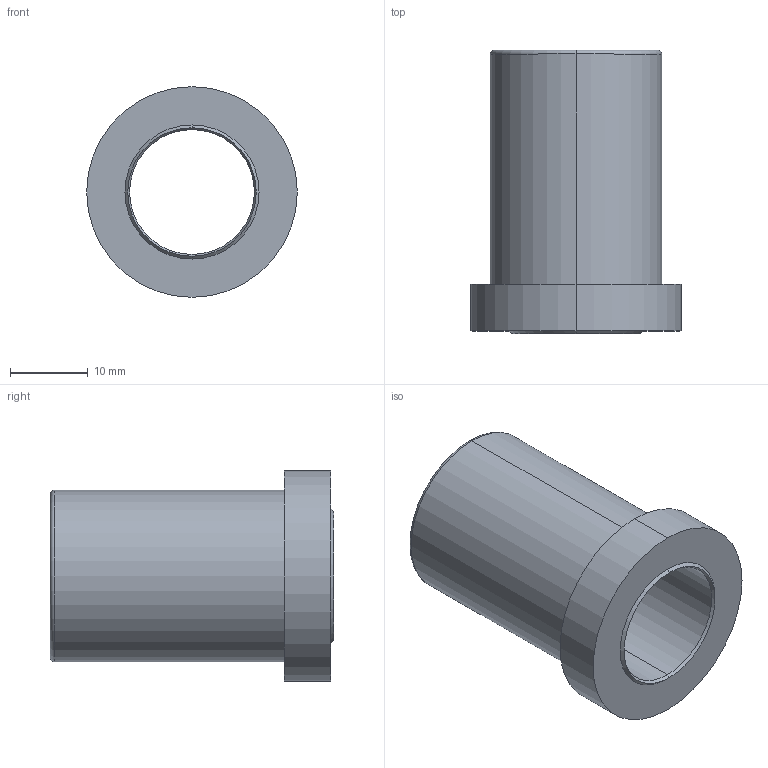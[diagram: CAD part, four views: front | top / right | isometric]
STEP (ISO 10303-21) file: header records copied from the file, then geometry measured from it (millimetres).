
FILE_DESCRIPTION (( 'STEP AP214' ), '1' );
FILE_NAME ('BR11W 16 x 36.STEP', '2020-07-16T14:09:50', ( 'August' ), ( '' ), 'SwSTEP 2.0', 'SolidWorks 2018', '' );
FILE_SCHEMA (( 'AUTOMOTIVE_DESIGN' ));
Length unit declared in the file: millimetre
Products named in the file (1): BR11W 16 x 36
Bounding box: 27 x 36.36 x 27 mm (x, y, z)
Volume: 7596.6 mm3; surface area: 5123.3 mm2
Topology: 1 solids, 1 shells, 17 faces, 34 edges, 20 vertices
Faces by surface type: cone 6, cylinder 6, plane 3, torus 2
Entity records: 484 total; most frequent: DIRECTION 92, CARTESIAN_POINT 72, ORIENTED_EDGE 68, AXIS2_PLACEMENT_3D 40, EDGE_CURVE 34, CIRCLE 22, VERTEX_POINT 20, EDGE_LOOP 20
